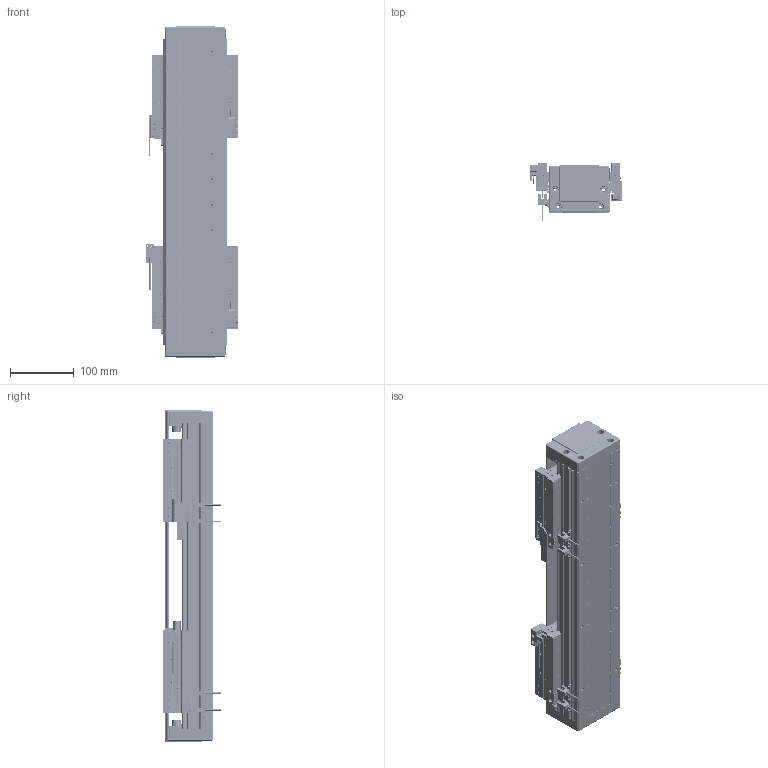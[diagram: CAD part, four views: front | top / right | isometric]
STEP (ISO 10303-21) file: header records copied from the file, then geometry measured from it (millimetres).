
FILE_DESCRIPTION (( 'STEP AP203' ), '1' );
FILE_NAME ('DA-B95-2-B15-T140-C010-0.2 直线电机.STEP', '2023-05-06T06:14:10', ( '微软用户' ), ( '微软中国' ), 'SwSTEP 2.0', 'SolidWorks 2019', '' );
FILE_SCHEMA (( 'CONFIG_CONTROL_DESIGN' ));
Length unit declared in the file: millimetre
Products named in the file (32): 葩璃 BKM015-W060-C1-TP-DA-0.2^DA-A95-B15-T-C010-0.2-N 眻盄萇儂; 66245-BU95-V 幗紩賑怢; B15 XD-U-02L ｴﾅﾕ､ｳﾟ^DA-A95-B15-T-C010-0.2-N ﾖｱﾏﾟｵ扈銈XD-U-02L; 复件 六角薄螺母 M3^DA-A95-B15-T-C010-0.2-N 直线电机_GB_FASTENER_NUT_STNAB M3-C; IU-BU95-L-00 菁釱_L480; 复件 DKW-GYP-ZJ-00 中间光电感应片^DA-A95-B15-T-C010-0.2-N 直线电机; PM-T45 光电开关^DA-A95-B15-T-C010-0.2-N 直线电机; IU-BU95-L 菁釱絳寢; 复件 DA95-B15-YB-A-00 压板A^66245-BU95-V 滚珠滑台; 复件 DA95-DB-00  挡板^66245-BU95-V 滚珠滑台; 复件 DA95-B15-YB-B-00 压板B^66245-BU95-V 滚珠滑台; 66245-BU95-V-00 珨极趙賑雄怢啣; 葩璃 DA95-B15-DP-A-00 菜えA^66245-BU95-V 幗紩賑怢; ｸｴｼ DA95-Txxx-002-00 ｸﾇｰ蘓DA-A95-B15-T-C010-0.2-N ﾖｱﾏﾟｵ扈銈T+30; 复件 DA95-HK-GT-00 滑块钢轨^66245-BU95-V-00 一体化滑动台板; 葩璃 BKMA01-W060-TRL^DA-A95-B15-T-C010-0.2-N 眻盄萇儂; 复件 DKW-HXJ-JY-00 缓冲橡胶^DA-A95-B15-T-C010-0.2-N 直线电机; DA-B95-2-B15-T140-C010-0.2 眻盄萇儂; 葩璃 PM-Y45^DA-A95-B15-T-C010-0.2-N 眻盄萇儂; 复件 66245-BU95-HT-V-01 滑动台板^66245-BU95-V-00 一体化滑动台板; DA-A95-GYP-00 光电感应片^DA-A95-B15-T-C010-0.2-N 直线电机; 葩璃 DA95-GT-T-00^IU-BU95-L 菁釱絳寢_DA95; 复件 DA95-DK-00 挡块^66245-BU95-V 滚珠滑台; 复件 纯铜油杯 6x6mm^66245-BU95-V 滚珠滑台; 复件 DA95-MFP-01 密封片^66245-BU95-V 滚珠滑台; 复件 DKW-KGZ-ZJ-00 中间光电开关支架^DA-A95-B15-T-C010-0.2-N 直线电机; DA95-DG-H-01^DA-A95-B15-T-C010-0.2-N 眻盄萇儂; LMDK-2-R001-V5-L02-C1-F00，0.2M 读数头^DA-A95-B15-T-C010-0.2-N 直线电机_DMA-010-0.2; 葩璃 DA95-B15-DP--B-00 菜えB^66245-BU95-V 幗紩賑怢; DA95-HXJ-00 缓冲橡胶^DA-A95-B15-T-C010-0.2-N 直线电机
Assembly tree (76 placements, depth 4):
  DA-B95-2-B15-T140-C010-0.2 眻盄萇儂
    IU-BU95-L 菁釱絳寢
      IU-BU95-L-00 菁釱_L480
      葩璃 DA95-GT-T-00^IU-BU95-L 菁釱絳寢_DA95  x2
    66245-BU95-V 幗紩賑怢
      66245-BU95-V-00 珨极趙賑雄怢啣
        复件 66245-BU95-HT-V-01 滑动台板^66245-BU95-V-00 一体化滑动台板
        复件 DA95-HK-GT-00 滑块钢轨^66245-BU95-V-00 一体化滑动台板  x2
      葩璃 DA95-B15-DP-A-00 菜えA^66245-BU95-V 幗紩賑怢
      复件 DA95-B15-YB-A-00 压板A^66245-BU95-V 滚珠滑台
      复件 DA95-B15-YB-B-00 压板B^66245-BU95-V 滚珠滑台
      复件 DA95-DB-00  挡板^66245-BU95-V 滚珠滑台  x4
      复件 DA95-DK-00 挡块^66245-BU95-V 滚珠滑台  x2
      复件 DA95-MFP-01 密封片^66245-BU95-V 滚珠滑台  x4
      复件 纯铜油杯 6x6mm^66245-BU95-V 滚珠滑台  x2
      葩璃 DA95-B15-DP--B-00 菜えB^66245-BU95-V 幗紩賑怢
    66245-BU95-V 幗紩賑怢
      66245-BU95-V-00 珨极趙賑雄怢啣
        复件 66245-BU95-HT-V-01 滑动台板^66245-BU95-V-00 一体化滑动台板
        复件 DA95-HK-GT-00 滑块钢轨^66245-BU95-V-00 一体化滑动台板  x2
      葩璃 DA95-B15-DP-A-00 菜えA^66245-BU95-V 幗紩賑怢
      复件 DA95-B15-YB-A-00 压板A^66245-BU95-V 滚珠滑台
      复件 DA95-B15-YB-B-00 压板B^66245-BU95-V 滚珠滑台
      复件 DA95-DB-00  挡板^66245-BU95-V 滚珠滑台  x4
      复件 DA95-DK-00 挡块^66245-BU95-V 滚珠滑台  x2
      复件 DA95-MFP-01 密封片^66245-BU95-V 滚珠滑台  x4
      复件 纯铜油杯 6x6mm^66245-BU95-V 滚珠滑台  x2
      葩璃 DA95-B15-DP--B-00 菜えB^66245-BU95-V 幗紩賑怢
    DA-A95-GYP-00 光电感应片^DA-A95-B15-T-C010-0.2-N 直线电机  x2
    LMDK-2-R001-V5-L02-C1-F00，0.2M 读数头^DA-A95-B15-T-C010-0.2-N 直线电机_DMA-010-0.2  x2
    复件 DKW-KGZ-ZJ-00 中间光电开关支架^DA-A95-B15-T-C010-0.2-N 直线电机
    葩璃 PM-Y45^DA-A95-B15-T-C010-0.2-N 眻盄萇儂
    复件 DKW-GYP-ZJ-00 中间光电感应片^DA-A95-B15-T-C010-0.2-N 直线电机
    葩璃 BKM015-W060-C1-TP-DA-0.2^DA-A95-B15-T-C010-0.2-N 眻盄萇儂  x2
    复件 DKW-HXJ-JY-00 缓冲橡胶^DA-A95-B15-T-C010-0.2-N 直线电机  x2
    PM-T45 光电开关^DA-A95-B15-T-C010-0.2-N 直线电机  x4
    B15 XD-U-02L ｴﾅﾕ､ｳﾟ^DA-A95-B15-T-C010-0.2-N ﾖｱﾏﾟｵ扈銈XD-U-02L
    DA95-DG-H-01^DA-A95-B15-T-C010-0.2-N 眻盄萇儂  x2
    ｸｴｼ DA95-Txxx-002-00 ｸﾇｰ蘓DA-A95-B15-T-C010-0.2-N ﾖｱﾏﾟｵ扈銈T+30
    DA95-HXJ-00 缓冲橡胶^DA-A95-B15-T-C010-0.2-N 直线电机  x4
    葩璃 BKMA01-W060-TRL^DA-A95-B15-T-C010-0.2-N 眻盄萇儂
    复件 六角薄螺母 M3^DA-A95-B15-T-C010-0.2-N 直线电机_GB_FASTENER_NUT_STNAB M3-C  x6
Bounding box: 145.4 x 90.2 x 520 mm (x, y, z)
Volume: 2789739.1 mm3; surface area: 830347.1 mm2
Topology: 71 solids, 89 shells, 4050 faces, 10240 edges, 6269 vertices
Faces by surface type: cylinder 1676, plane 1422, cone 544, bspline 344, torus 60, sphere 4
Entity records: 74591 total; most frequent: CARTESIAN_POINT 19966, DIRECTION 10469, ORIENTED_EDGE 10418, EDGE_CURVE 5209, AXIS2_PLACEMENT_3D 3883, VERTEX_POINT 3284, LINE 2703, VECTOR 2703
